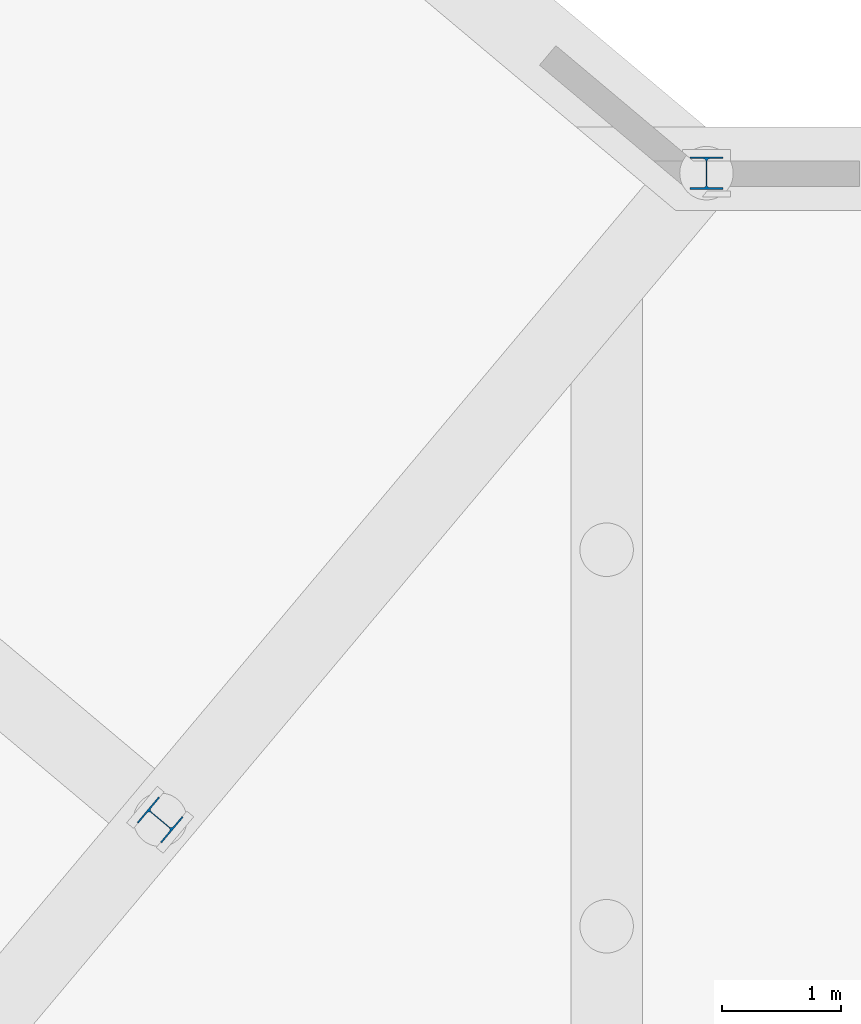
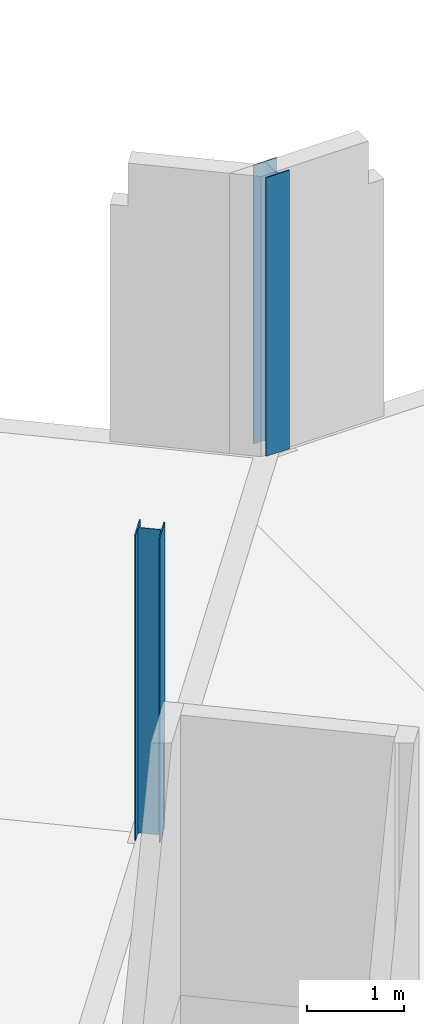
# One storey, part 11 of 26: 2 columns.
"""IFC2X3 building model written with IfcOpenShell, lengths in millimetres."""

from ifc_helpers import new_model, entity, si_unit, converted_unit, derived_unit, direction, frame, frame_2d, origin, place, context, subcontext, project, spatial, i_section, extrude, source, transform, mapped, material, type_object, type_shapes, element, save


model = new_model("IFC2X3")

# Units and contexts
model_context = context("Model", 3, precision=0.01, world=origin(), true_north=direction((6.123031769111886e-17, 1.0)))
body_context = subcontext(model_context, "Body", "Model", "MODEL_VIEW")
ifc_project = project(units=[si_unit("LENGTHUNIT", "METRE", prefix="MILLI"), si_unit("AREAUNIT", "SQUARE_METRE"), si_unit("VOLUMEUNIT", "CUBIC_METRE"), derived_unit("MASSDENSITYUNIT", [(si_unit("MASSUNIT", "GRAM", prefix="KILO"), 1), (si_unit("LENGTHUNIT", "METRE"), -3)]), si_unit("MASSUNIT", "GRAM", prefix="KILO"), converted_unit("PLANEANGLEUNIT", "DEGREE", entity("IfcPlaneAngleMeasure", 0.017453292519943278), si_unit("PLANEANGLEUNIT", "RADIAN"), dimensions=[0, 0, 0, 0, 0, 0, 0])], contexts=[model_context])

# Site, building, storey
site_placement = place(None, origin())
site = spatial("IfcSite", under=ifc_project, at=site_placement, Name="Default", CompositionType="ELEMENT")
building_placement = place(site_placement, origin())
building = spatial("IfcBuilding", under=site, at=building_placement, Name="AT constructie", CompositionType="ELEMENT")
storey_placement = place(building_placement, origin())
storey = spatial("IfcBuildingStorey", under=building, at=storey_placement, Name="00 begane grond", CompositionType="ELEMENT", Elevation=-1.0828671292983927e-12)

# Columns
ifc_material = material(Name="h2_staal_S355")
column_type_1 = type_object("IfcColumnType", Name="kolom_gen_HEA280", PredefinedType="COLUMN", material=ifc_material)
shared_shape_1 = source(origin(), body_context, "Body", "SweptSolid", [
    extrude(i_section(OverallWidth=279.99999999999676, OverallDepth=270.00000000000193, WebThickness=8.00000000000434, FlangeThickness=12.999999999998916, FilletRadius=24.0, at=frame_2d((-3.325340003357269e-12, -2.7853275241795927e-12), x_axis=(1.0, 0.0))), frame((39462.76846748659, 37332.628400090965, -50.0), z_axis=(0.0, 0.0, 1.0), x_axis=(-0.6427876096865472, -0.7660444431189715, 0.0)), (0.0, 0.0, 1.0), 3863.999999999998),
])
type_shapes(column_type_1, [shared_shape_1])
column_1_placement = place(storey_placement, origin())
element("IfcColumn", 1, at=column_1_placement, inside=storey, type_object=column_type_1, material=ifc_material, Name="NLRS_28_SC_TLB_kolom HEA_gen_AT:kolom_gen_HEA280", ObjectType="NLRS_28_SC_TLB_kolom HEA_gen_AT:kolom_gen_HEA280", context=body_context, shape_type="MappedRepresentation", body=[
    mapped(shared_shape_1, transform((0.0, 0.0, 0.0), scale=1.0)),
])
column_type_2 = type_object("IfcColumnType", Name="kolom_gen_HEA280", PredefinedType="COLUMN", material=ifc_material)
shared_shape_2 = source(origin(), body_context, "Body", "SweptSolid", [
    extrude(i_section(OverallWidth=279.999999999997, OverallDepth=269.99999999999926, WebThickness=8.000000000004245, FlangeThickness=13.000000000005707, FilletRadius=24.0, at=frame_2d((8.65441052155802e-12, 8.668621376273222e-12), x_axis=(1.0, 0.0))), frame((44056.31688164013, 42769.54350852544, -50.0), z_axis=(0.0, 0.0, 1.0), x_axis=(-1.0, 0.0, 0.0)), (0.0, 0.0, 1.0), 3524.000000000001),
])
type_shapes(column_type_2, [shared_shape_2])
column_2_placement = place(storey_placement, origin())
element("IfcColumn", 2, at=column_2_placement, inside=storey, type_object=column_type_2, material=ifc_material, Name="NLRS_28_SC_TLB_kolom HEA_gen_AT:kolom_gen_HEA280", ObjectType="NLRS_28_SC_TLB_kolom HEA_gen_AT:kolom_gen_HEA280", context=body_context, shape_type="MappedRepresentation", body=[
    mapped(shared_shape_2, transform((0.0, 0.0, 0.0), scale=1.0)),
])

save(model, "model.ifc")
